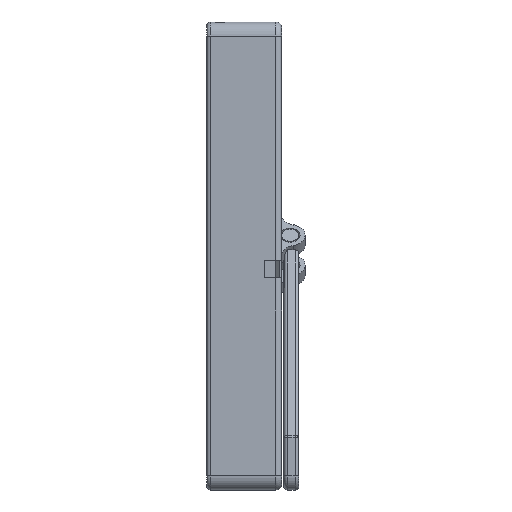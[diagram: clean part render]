
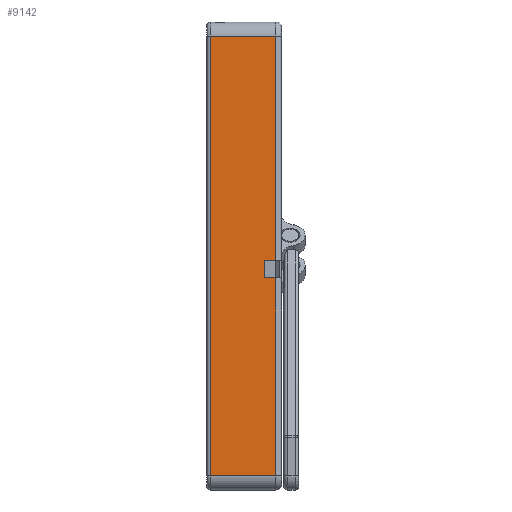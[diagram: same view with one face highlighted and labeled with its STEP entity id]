
A CAD part, left-side view. The second image highlights one B-rep face of the part: STEP entity #9142.
In plain terms, the highlighted planar face has unit normal (-1, 0, 0).
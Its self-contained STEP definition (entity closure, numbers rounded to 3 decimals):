
#2289=DIRECTION('',(0.,1.,0.));
#2290=VECTOR('',#2289,23.2);
#2291=CARTESIAN_POINT('',(-82.5,2.,77.5));
#2292=LINE('',#2291,#2290);
#3329=DIRECTION('',(0.,0.,-1.));
#3330=VECTOR('',#3329,69.8);
#3331=CARTESIAN_POINT('',(-82.5,2.,-7.7));
#3332=LINE('',#3331,#3330);
#3333=DIRECTION('',(0.,1.,0.));
#3334=VECTOR('',#3333,23.2);
#3335=CARTESIAN_POINT('',(-82.5,2.,-77.5));
#3336=LINE('',#3335,#3334);
#3337=DIRECTION('',(0.,0.,1.));
#3338=VECTOR('',#3337,155.);
#3339=CARTESIAN_POINT('',(-82.5,25.2,-77.5));
#3340=LINE('',#3339,#3338);
#3341=DIRECTION('',(0.,0.,-1.));
#3342=VECTOR('',#3341,79.2);
#3343=CARTESIAN_POINT('',(-82.5,2.,77.5));
#3344=LINE('',#3343,#3342);
#3345=DIRECTION('',(0.,1.,0.));
#3346=VECTOR('',#3345,4.);
#3347=CARTESIAN_POINT('',(-82.5,2.,-1.7));
#3348=LINE('',#3347,#3346);
#3349=DIRECTION('',(0.,0.,1.));
#3350=VECTOR('',#3349,6.);
#3351=CARTESIAN_POINT('',(-82.5,6.,-7.7));
#3352=LINE('',#3351,#3350);
#3353=DIRECTION('',(0.,1.,0.));
#3354=VECTOR('',#3353,4.);
#3355=CARTESIAN_POINT('',(-82.5,2.,-7.7));
#3356=LINE('',#3355,#3354);
#4241=CARTESIAN_POINT('',(-82.5,6.,-7.7));
#4242=CARTESIAN_POINT('',(-82.5,6.,-1.7));
#4243=VERTEX_POINT('',#4241);
#4244=VERTEX_POINT('',#4242);
#4327=CARTESIAN_POINT('',(-82.5,2.,-77.5));
#4328=VERTEX_POINT('',#4327);
#4329=CARTESIAN_POINT('',(-82.5,2.,-7.7));
#4331=VERTEX_POINT('',#4329);
#4334=CARTESIAN_POINT('',(-82.5,2.,-1.7));
#4336=VERTEX_POINT('',#4334);
#4337=CARTESIAN_POINT('',(-82.5,2.,77.5));
#4338=VERTEX_POINT('',#4337);
#4369=CARTESIAN_POINT('',(-82.5,25.2,77.5));
#4371=VERTEX_POINT('',#4369);
#4395=CARTESIAN_POINT('',(-82.5,25.2,-77.5));
#4396=VERTEX_POINT('',#4395);
#9126=CARTESIAN_POINT('',(-82.5,0.,-82.5));
#9127=DIRECTION('',(-1.,0.,0.));
#9128=DIRECTION('',(0.,0.,1.));
#9129=AXIS2_PLACEMENT_3D('',#9126,#9127,#9128);
#9130=PLANE('',#9129);
#9131=ORIENTED_EDGE('',*,*,#8885,.T.);
#9133=ORIENTED_EDGE('',*,*,#9132,.T.);
#9134=ORIENTED_EDGE('',*,*,#9119,.T.);
#9135=ORIENTED_EDGE('',*,*,#7673,.F.);
#9136=ORIENTED_EDGE('',*,*,#7701,.T.);
#9137=ORIENTED_EDGE('',*,*,#7726,.T.);
#9138=ORIENTED_EDGE('',*,*,#8802,.F.);
#9139=ORIENTED_EDGE('',*,*,#8859,.F.);
#9140=EDGE_LOOP('',(#9131,#9133,#9134,#9135,#9136,#9137,#9138,#9139));
#9141=FACE_OUTER_BOUND('',#9140,.F.);
#9142=ADVANCED_FACE('',(#9141),#9130,.T.);
#7673=EDGE_CURVE('',#4338,#4371,#2292,.T.);
#7701=EDGE_CURVE('',#4338,#4336,#3344,.T.);
#7726=EDGE_CURVE('',#4336,#4244,#3348,.T.);
#8802=EDGE_CURVE('',#4243,#4244,#3352,.T.);
#8859=EDGE_CURVE('',#4331,#4243,#3356,.T.);
#8885=EDGE_CURVE('',#4331,#4328,#3332,.T.);
#9119=EDGE_CURVE('',#4396,#4371,#3340,.T.);
#9132=EDGE_CURVE('',#4328,#4396,#3336,.T.);
